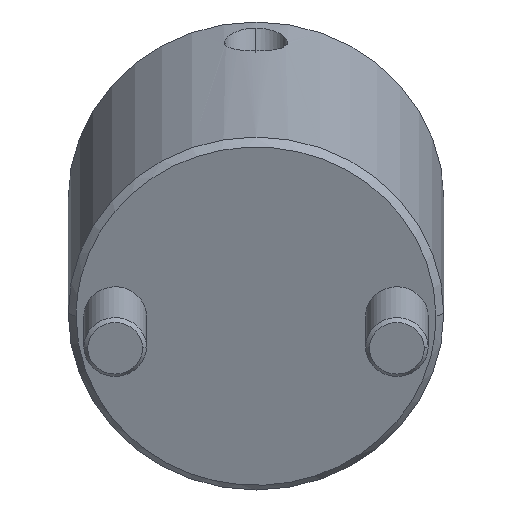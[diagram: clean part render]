
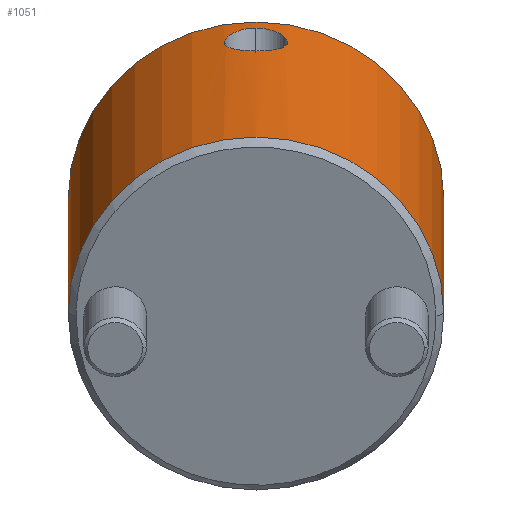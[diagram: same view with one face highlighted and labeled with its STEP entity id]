
A CAD part, front view. The second image highlights one B-rep face of the part: STEP entity #1051.
In plain terms, the highlighted cylindrical face has radius 24 mm (diameter 48 mm), a partial arc.
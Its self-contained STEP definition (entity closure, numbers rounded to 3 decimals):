
#802=CARTESIAN_POINT('Vertex',(0.,24.,1.)) ;
#805=CARTESIAN_POINT('Axis2P3D Location',(0.,0.,1.)) ;
#809=CARTESIAN_POINT('Vertex',(0.,-24.,1.)) ;
#961=CARTESIAN_POINT('Axis2P3D Location',(0.,0.,-2.25)) ;
#966=CARTESIAN_POINT('Line Origine',(0.,24.,-2.25)) ;
#970=CARTESIAN_POINT('Vertex',(0.,24.,44.)) ;
#973=CARTESIAN_POINT('Axis2P3D Location',(0.,0.,44.)) ;
#977=CARTESIAN_POINT('Vertex',(0.,-24.,44.)) ;
#980=CARTESIAN_POINT('Line Origine',(0.,-24.,-2.25)) ;
#992=CARTESIAN_POINT('Control Point',(24.,0.,41.721)) ;
#993=CARTESIAN_POINT('Control Point',(24.,0.376,41.721)) ;
#994=CARTESIAN_POINT('Control Point',(23.993,0.745,41.672)) ;
#995=CARTESIAN_POINT('Control Point',(23.978,1.106,41.575)) ;
#996=CARTESIAN_POINT('Control Point',(23.938,1.806,41.29)) ;
#997=CARTESIAN_POINT('Control Point',(23.88,2.43,40.838)) ;
#998=CARTESIAN_POINT('Control Point',(23.847,2.726,40.563)) ;
#999=CARTESIAN_POINT('Control Point',(23.797,3.127,40.093)) ;
#1000=CARTESIAN_POINT('Control Point',(23.752,3.442,39.557)) ;
#1001=CARTESIAN_POINT('Control Point',(23.738,3.538,39.372)) ;
#1002=CARTESIAN_POINT('Control Point',(23.699,3.792,38.8)) ;
#1003=CARTESIAN_POINT('Control Point',(23.673,3.949,38.191)) ;
#1004=CARTESIAN_POINT('Control Point',(23.663,4.009,37.776)) ;
#1005=CARTESIAN_POINT('Control Point',(23.659,4.032,36.837)) ;
#1006=CARTESIAN_POINT('Control Point',(23.695,3.819,35.939)) ;
#1007=CARTESIAN_POINT('Control Point',(23.725,3.633,35.475)) ;
#1008=CARTESIAN_POINT('Control Point',(23.793,3.181,34.705)) ;
#1009=CARTESIAN_POINT('Control Point',(23.868,2.542,34.09)) ;
#1010=CARTESIAN_POINT('Control Point',(23.9,2.227,33.856)) ;
#1011=CARTESIAN_POINT('Control Point',(23.951,1.613,33.506)) ;
#1012=CARTESIAN_POINT('Control Point',(23.985,0.939,33.3)) ;
#1013=CARTESIAN_POINT('Control Point',(23.995,0.629,33.238)) ;
#1014=CARTESIAN_POINT('Control Point',(24.,0.316,33.207)) ;
#1015=CARTESIAN_POINT('Control Point',(24.,0.,33.207)) ;
#1016=CARTESIAN_POINT('Vertex',(24.,0.,41.721)) ;
#1018=CARTESIAN_POINT('Vertex',(24.,0.,33.207)) ;
#1022=CARTESIAN_POINT('Control Point',(24.,0.,33.207)) ;
#1023=CARTESIAN_POINT('Control Point',(24.,-0.488,33.207)) ;
#1024=CARTESIAN_POINT('Control Point',(23.988,-0.968,33.281)) ;
#1025=CARTESIAN_POINT('Control Point',(23.963,-1.44,33.429)) ;
#1026=CARTESIAN_POINT('Control Point',(23.909,-2.144,33.776)) ;
#1027=CARTESIAN_POINT('Control Point',(23.845,-2.739,34.283)) ;
#1028=CARTESIAN_POINT('Control Point',(23.82,-2.944,34.493)) ;
#1029=CARTESIAN_POINT('Control Point',(23.755,-3.441,35.105)) ;
#1030=CARTESIAN_POINT('Control Point',(23.702,-3.779,35.825)) ;
#1031=CARTESIAN_POINT('Control Point',(23.677,-3.924,36.308)) ;
#1032=CARTESIAN_POINT('Control Point',(23.659,-4.029,37.024)) ;
#1033=CARTESIAN_POINT('Control Point',(23.666,-3.989,37.747)) ;
#1034=CARTESIAN_POINT('Control Point',(23.67,-3.966,37.955)) ;
#1035=CARTESIAN_POINT('Control Point',(23.685,-3.879,38.47)) ;
#1036=CARTESIAN_POINT('Control Point',(23.71,-3.72,38.967)) ;
#1037=CARTESIAN_POINT('Control Point',(23.729,-3.601,39.257)) ;
#1038=CARTESIAN_POINT('Control Point',(23.765,-3.361,39.724)) ;
#1039=CARTESIAN_POINT('Control Point',(23.805,-3.059,40.147)) ;
#1040=CARTESIAN_POINT('Control Point',(23.821,-2.929,40.309)) ;
#1041=CARTESIAN_POINT('Control Point',(23.886,-2.382,40.913)) ;
#1042=CARTESIAN_POINT('Control Point',(23.947,-1.721,41.359)) ;
#1043=CARTESIAN_POINT('Control Point',(23.981,-1.177,41.597)) ;
#1044=CARTESIAN_POINT('Control Point',(24.,-0.597,41.721)) ;
#1045=CARTESIAN_POINT('Control Point',(24.,0.,41.721)) ;
#806=DIRECTION('Axis2P3D Direction',(0.,0.,1.)) ;
#962=DIRECTION('Axis2P3D Direction',(0.,-0.,1.)) ;
#963=DIRECTION('Axis2P3D XDirection',(0.,-1.,0.)) ;
#967=DIRECTION('Vector Direction',(0.,0.,1.)) ;
#974=DIRECTION('Axis2P3D Direction',(0.,-0.,1.)) ;
#981=DIRECTION('Vector Direction',(0.,0.,1.)) ;
#807=AXIS2_PLACEMENT_3D('Circle Axis2P3D',#805,#806,$) ;
#964=AXIS2_PLACEMENT_3D('Cylinder Axis2P3D',#961,#962,#963) ;
#975=AXIS2_PLACEMENT_3D('Circle Axis2P3D',#973,#974,$) ;
#986=ORIENTED_EDGE('',*,*,#972,.F.) ;
#987=ORIENTED_EDGE('',*,*,#979,.T.) ;
#988=ORIENTED_EDGE('',*,*,#984,.T.) ;
#989=ORIENTED_EDGE('',*,*,#811,.F.) ;
#1048=ORIENTED_EDGE('',*,*,#1020,.T.) ;
#1049=ORIENTED_EDGE('',*,*,#1046,.T.) ;
#1050=FACE_BOUND('',#1047,.T.) ;
#968=VECTOR('Line Direction',#967,1.) ;
#982=VECTOR('Line Direction',#981,1.) ;
#1051=ADVANCED_FACE('MANIFOLD_SOLID_BREP #1134',(#990,#1050),#965,.T.) ;
#991=B_SPLINE_CURVE_WITH_KNOTS('',5,(#992,#993,#994,#995,#996,#997,#998,#999,#1000,#1001,#1002,#1003,#1004,#1005,#1006,#1007,#1008,#1009,#1010,#1011,#1012,#1013,#1014,#1015),.UNSPECIFIED.,.F.,.U.,(6,3,3,3,3,3,3,6),(0.,2.693,5.516,6.952,9.815,13.339,16.131,18.389),.UNSPECIFIED.) ;
#1021=B_SPLINE_CURVE_WITH_KNOTS('',5,(#1022,#1023,#1024,#1025,#1026,#1027,#1028,#1029,#1030,#1031,#1032,#1033,#1034,#1035,#1036,#1037,#1038,#1039,#1040,#1041,#1042,#1043,#1044,#1045),.UNSPECIFIED.,.F.,.U.,(6,3,3,3,3,3,3,6),(0.,3.488,5.589,9.113,10.538,12.7,14.12,18.39),.UNSPECIFIED.) ;
#808=CIRCLE('generated circle',#807,24.) ;
#976=CIRCLE('generated circle',#975,24.) ;
#965=CYLINDRICAL_SURFACE('generated cylinder',#964,24.) ;
#811=EDGE_CURVE('',#803,#810,#808,.F.) ;
#972=EDGE_CURVE('',#971,#803,#969,.F.) ;
#979=EDGE_CURVE('',#971,#978,#976,.F.) ;
#984=EDGE_CURVE('',#978,#810,#983,.F.) ;
#1020=EDGE_CURVE('',#1017,#1019,#991,.T.) ;
#1046=EDGE_CURVE('',#1019,#1017,#1021,.T.) ;
#985=EDGE_LOOP('',(#986,#987,#988,#989)) ;
#1047=EDGE_LOOP('',(#1048,#1049)) ;
#990=FACE_OUTER_BOUND('',#985,.T.) ;
#969=LINE('Line',#966,#968) ;
#983=LINE('Line',#980,#982) ;
#803=VERTEX_POINT('',#802) ;
#810=VERTEX_POINT('',#809) ;
#971=VERTEX_POINT('',#970) ;
#978=VERTEX_POINT('',#977) ;
#1017=VERTEX_POINT('',#1016) ;
#1019=VERTEX_POINT('',#1018) ;
